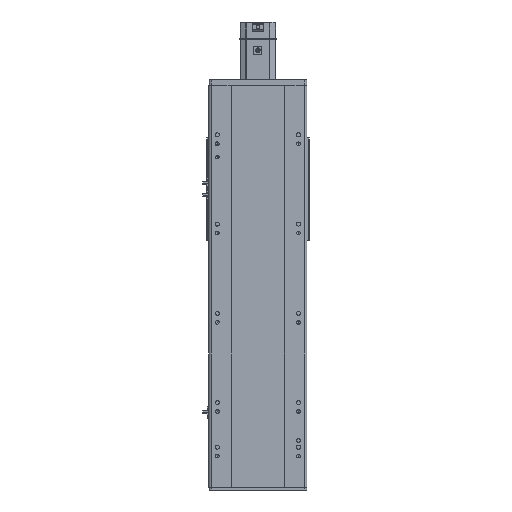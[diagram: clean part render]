
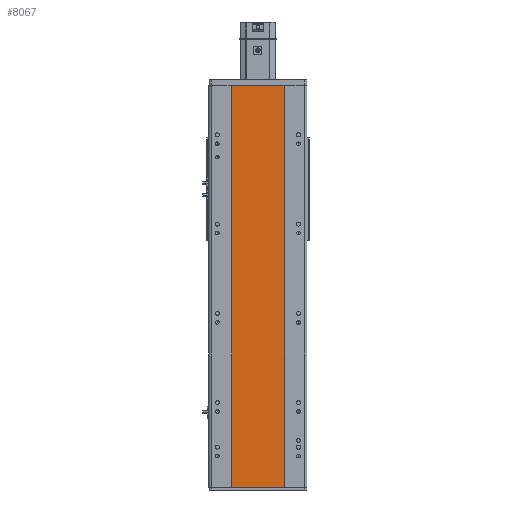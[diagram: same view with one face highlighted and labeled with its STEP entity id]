
A CAD part, front view. The second image highlights one B-rep face of the part: STEP entity #8067.
In plain terms, the highlighted planar face has unit normal (0, -1, 0).
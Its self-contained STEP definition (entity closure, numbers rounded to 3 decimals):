
#825 = ORIENTED_EDGE ( 'NONE', *, *, #2859, .F. ) ;
#938 = LINE ( 'NONE', #22637, #30876 ) ;
#1108 = CARTESIAN_POINT ( 'NONE',  ( -59., 1., -450.5 ) ) ;
#2186 = EDGE_CURVE ( 'NONE', #17623, #33954, #938, .T. ) ;
#2859 = EDGE_CURVE ( 'NONE', #24558, #17623, #29935, .T. ) ;
#8067 = ADVANCED_FACE ( 'NONE', ( #22841 ), #16550, .F. ) ;
#8304 = DIRECTION ( 'NONE',  ( 0., 1., 0. ) ) ;
#8334 = CARTESIAN_POINT ( 'NONE',  ( -59., 1., 450.5 ) ) ;
#9196 = ORIENTED_EDGE ( 'NONE', *, *, #2186, .F. ) ;
#10905 = EDGE_CURVE ( 'NONE', #24558, #32613, #22202, .T. ) ;
#11322 = DIRECTION ( 'NONE',  ( 0., 0., -1. ) ) ;
#13170 = ORIENTED_EDGE ( 'NONE', *, *, #10905, .T. ) ;
#13979 = CARTESIAN_POINT ( 'NONE',  ( -59., 1., -450.5 ) ) ;
#14491 = VECTOR ( 'NONE', #16123, 1000. ) ;
#14724 = ORIENTED_EDGE ( 'NONE', *, *, #34493, .T. ) ;
#16123 = DIRECTION ( 'NONE',  ( 0., 0., -1. ) ) ;
#16550 = PLANE ( 'NONE',  #18508 ) ;
#16927 = DIRECTION ( 'NONE',  ( -1., 0., 0. ) ) ;
#17623 = VERTEX_POINT ( 'NONE', #29988 ) ;
#18028 = CARTESIAN_POINT ( 'NONE',  ( -59., 1., 450.5 ) ) ;
#18508 = AXIS2_PLACEMENT_3D ( 'NONE', #36796, #8304, #16927 ) ;
#21350 = VECTOR ( 'NONE', #23730, 1000. ) ;
#21359 = LINE ( 'NONE', #1108, #31268 ) ;
#22202 = LINE ( 'NONE', #24851, #14491 ) ;
#22278 = DIRECTION ( 'NONE',  ( 1., 0., 0. ) ) ;
#22637 = CARTESIAN_POINT ( 'NONE',  ( 59., 1., 450.5 ) ) ;
#22841 = FACE_OUTER_BOUND ( 'NONE', #34979, .T. ) ;
#23730 = DIRECTION ( 'NONE',  ( 1., 0., 0. ) ) ;
#24558 = VERTEX_POINT ( 'NONE', #8334 ) ;
#24851 = CARTESIAN_POINT ( 'NONE',  ( -59., 1., 450.5 ) ) ;
#24977 = CARTESIAN_POINT ( 'NONE',  ( 59., 1., -450.5 ) ) ;
#29935 = LINE ( 'NONE', #18028, #21350 ) ;
#29988 = CARTESIAN_POINT ( 'NONE',  ( 59., 1., 450.5 ) ) ;
#30876 = VECTOR ( 'NONE', #11322, 1000. ) ;
#31268 = VECTOR ( 'NONE', #22278, 1000. ) ;
#32613 = VERTEX_POINT ( 'NONE', #13979 ) ;
#33954 = VERTEX_POINT ( 'NONE', #24977 ) ;
#34493 = EDGE_CURVE ( 'NONE', #32613, #33954, #21359, .T. ) ;
#34979 = EDGE_LOOP ( 'NONE', ( #14724, #9196, #825, #13170 ) ) ;
#36796 = CARTESIAN_POINT ( 'NONE',  ( -59., 1., 450.5 ) ) ;
